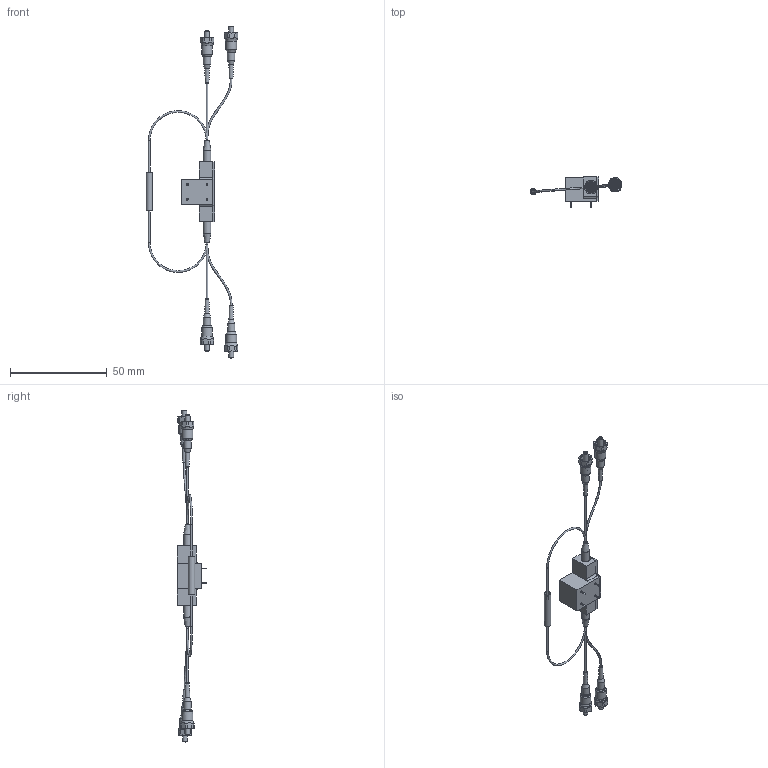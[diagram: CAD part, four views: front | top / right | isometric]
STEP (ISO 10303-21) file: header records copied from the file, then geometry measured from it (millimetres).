
FILE_DESCRIPTION (( 'STEP AP203' ), '1' );
FILE_NAME ('MS 2X2 For SM or MM Fiber.STEP', '2025-01-17T15:41:27', ( 'cad' ), ( '' ), 'SwSTEP 2.0', 'SolidWorks 2017', '' );
FILE_SCHEMA (( 'CONFIG_CONTROL_DESIGN' ));
Length unit declared in the file: millimetre
Products named in the file (17): 1001248A_box-full2x2; 1001233_metal tube 3.5mm^ASM-full 2x2; rubber boot d3mm^ASM-full 2x2; Part26^ASM-full 2x2; Part3^ASM-full 2x2; CONNECTOR_MINI_AVIM_; 錨璃2^ASM-full 2x2; FIBER_JACKET_SWIVEL; relay-LACHING; 錨璃3^ASM-full 2x2; CONNECTOR_MINI_AVIM; Cover-1x2; MS 2X2 For SM or MM Fiber; CONNECTOR_MINI_AVIMS; ORING-FLUOROELASTOMER; 3410 UV epoxy^ASM-full 2x2; M2 X3 SCREW
Assembly tree (25 placements, depth 3):
  MS 2X2 For SM or MM Fiber
    relay-LACHING
    Cover-1x2
    ORING-FLUOROELASTOMER  x3
    M2 X3 SCREW  x3
    Part26^ASM-full 2x2
    CONNECTOR_MINI_AVIM  x2
      CONNECTOR_MINI_AVIM_
      FIBER_JACKET_SWIVEL
    CONNECTOR_MINI_AVIMS  x2
    3410 UV epoxy^ASM-full 2x2
    1001248A_box-full2x2
    1001233_metal tube 3.5mm^ASM-full 2x2  x2
    rubber boot d3mm^ASM-full 2x2  x2
    Part3^ASM-full 2x2  x2
    錨璃2^ASM-full 2x2
    錨璃3^ASM-full 2x2
Bounding box: 47.54 x 15.5 x 171.6 mm (x, y, z)
Volume: 4421.3 mm3; surface area: 10285 mm2
Topology: 29 solids, 33 shells, 1294 faces, 3452 edges, 2328 vertices
Faces by surface type: plane 690, cylinder 259, cone 183, bspline 151, torus 11
Full cylindrical faces by diameter (mm): 0.25 x2, 0.5 x4, 0.899 x4, 0.9 x4, 1 x12, 1.1 x8, 1.3 x4, 1.47 x4, 1.5 x6, 1.53 x4, 1.55 x4, 1.8 x4, 2 x6, 2.1 x4, 2.2 x4, 2.5 x12, 3 x2, 3.039 x1, 3.2 x2, 3.252 x1, 3.5 x2, 3.8 x4, 4 x2, 4.3 x4, 4.4 x3, 4.6 x4, 5 x7, 5.5 x3, 5.6 x8, 5.8 x4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
Entity records: 44485 total; most frequent: CARTESIAN_POINT 23089, ORIENTED_EDGE 4298, DIRECTION 3189, EDGE_CURVE 2149, VERTEX_POINT 1516, LINE 1147, VECTOR 1147, EDGE_LOOP 1085
